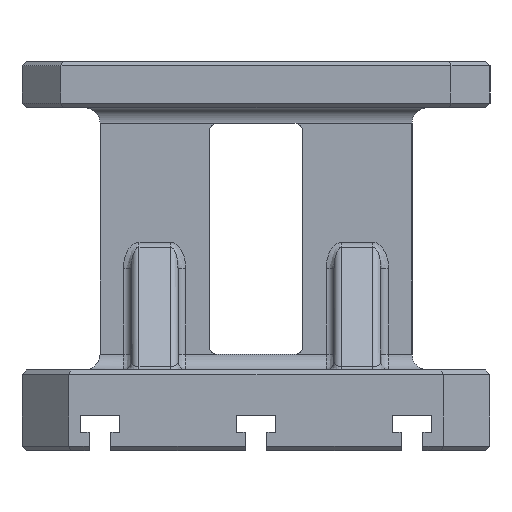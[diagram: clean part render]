
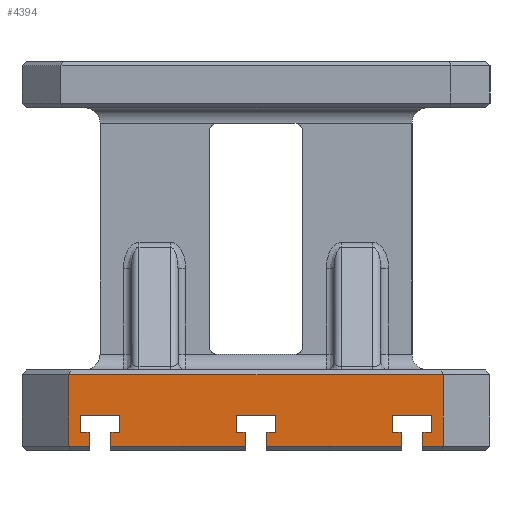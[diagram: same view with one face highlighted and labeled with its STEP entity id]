
A CAD part, left-side view. The second image highlights one B-rep face of the part: STEP entity #4394.
In plain terms, the highlighted planar face has unit normal (-1, 0, 0).
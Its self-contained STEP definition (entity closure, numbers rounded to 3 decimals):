
#141=DIRECTION('',(0.,0.,1.));
#142=VECTOR('',#141,9.);
#143=CARTESIAN_POINT('',(-300.,-107.,-23.));
#144=LINE('',#143,#142);
#145=DIRECTION('',(0.,-1.,0.));
#146=VECTOR('',#145,5.5);
#147=CARTESIAN_POINT('',(-300.,-107.,-14.));
#148=LINE('',#147,#146);
#149=DIRECTION('',(0.,0.,1.));
#150=VECTOR('',#149,11.);
#151=CARTESIAN_POINT('',(-300.,-112.5,-14.));
#152=LINE('',#151,#150);
#153=DIRECTION('',(0.,1.,0.));
#154=VECTOR('',#153,25.);
#155=CARTESIAN_POINT('',(-300.,-112.5,-3.));
#156=LINE('',#155,#154);
#157=DIRECTION('',(0.,0.,-1.));
#158=VECTOR('',#157,11.);
#159=CARTESIAN_POINT('',(-300.,-87.5,-3.));
#160=LINE('',#159,#158);
#161=DIRECTION('',(0.,-1.,0.));
#162=VECTOR('',#161,5.5);
#163=CARTESIAN_POINT('',(-300.,-87.5,-14.));
#164=LINE('',#163,#162);
#165=DIRECTION('',(0.,0.,1.));
#166=VECTOR('',#165,9.);
#167=CARTESIAN_POINT('',(-300.,-93.,-23.));
#168=LINE('',#167,#166);
#169=DIRECTION('',(0.,1.,0.));
#170=VECTOR('',#169,86.);
#171=CARTESIAN_POINT('',(-300.,-93.,-23.));
#172=LINE('',#171,#170);
#173=DIRECTION('',(0.,0.,1.));
#174=VECTOR('',#173,9.);
#175=CARTESIAN_POINT('',(-300.,-7.,-23.));
#176=LINE('',#175,#174);
#177=DIRECTION('',(0.,-1.,0.));
#178=VECTOR('',#177,5.5);
#179=CARTESIAN_POINT('',(-300.,-7.,-14.));
#180=LINE('',#179,#178);
#181=DIRECTION('',(0.,0.,1.));
#182=VECTOR('',#181,11.);
#183=CARTESIAN_POINT('',(-300.,-12.5,-14.));
#184=LINE('',#183,#182);
#185=DIRECTION('',(0.,1.,0.));
#186=VECTOR('',#185,25.);
#187=CARTESIAN_POINT('',(-300.,-12.5,-3.));
#188=LINE('',#187,#186);
#189=DIRECTION('',(0.,0.,-1.));
#190=VECTOR('',#189,11.);
#191=CARTESIAN_POINT('',(-300.,12.5,-3.));
#192=LINE('',#191,#190);
#193=DIRECTION('',(0.,-1.,0.));
#194=VECTOR('',#193,5.5);
#195=CARTESIAN_POINT('',(-300.,12.5,-14.));
#196=LINE('',#195,#194);
#197=DIRECTION('',(0.,0.,1.));
#198=VECTOR('',#197,9.);
#199=CARTESIAN_POINT('',(-300.,7.,-23.));
#200=LINE('',#199,#198);
#201=DIRECTION('',(0.,1.,0.));
#202=VECTOR('',#201,86.);
#203=CARTESIAN_POINT('',(-300.,7.,-23.));
#204=LINE('',#203,#202);
#205=DIRECTION('',(0.,0.,1.));
#206=VECTOR('',#205,9.);
#207=CARTESIAN_POINT('',(-300.,93.,-23.));
#208=LINE('',#207,#206);
#209=DIRECTION('',(0.,-1.,0.));
#210=VECTOR('',#209,5.5);
#211=CARTESIAN_POINT('',(-300.,93.,-14.));
#212=LINE('',#211,#210);
#213=DIRECTION('',(0.,0.,1.));
#214=VECTOR('',#213,11.);
#215=CARTESIAN_POINT('',(-300.,87.5,-14.));
#216=LINE('',#215,#214);
#217=DIRECTION('',(0.,1.,0.));
#218=VECTOR('',#217,25.);
#219=CARTESIAN_POINT('',(-300.,87.5,-3.));
#220=LINE('',#219,#218);
#221=DIRECTION('',(0.,0.,-1.));
#222=VECTOR('',#221,11.);
#223=CARTESIAN_POINT('',(-300.,112.5,-3.));
#224=LINE('',#223,#222);
#225=DIRECTION('',(0.,-1.,0.));
#226=VECTOR('',#225,5.5);
#227=CARTESIAN_POINT('',(-300.,112.5,-14.));
#228=LINE('',#227,#226);
#229=DIRECTION('',(0.,0.,1.));
#230=VECTOR('',#229,9.);
#231=CARTESIAN_POINT('',(-300.,107.,-23.));
#232=LINE('',#231,#230);
#233=DIRECTION('',(0.,1.,0.));
#234=VECTOR('',#233,13.);
#235=CARTESIAN_POINT('',(-300.,107.,-23.));
#236=LINE('',#235,#234);
#237=DIRECTION('',(0.,0.,-1.));
#238=VECTOR('',#237,46.);
#239=CARTESIAN_POINT('',(-300.,120.,23.));
#240=LINE('',#239,#238);
#241=DIRECTION('',(0.,-1.,0.));
#242=VECTOR('',#241,240.);
#243=CARTESIAN_POINT('',(-300.,120.,23.));
#244=LINE('',#243,#242);
#245=DIRECTION('',(0.,0.,-1.));
#246=VECTOR('',#245,46.);
#247=CARTESIAN_POINT('',(-300.,-120.,23.));
#248=LINE('',#247,#246);
#249=DIRECTION('',(0.,1.,0.));
#250=VECTOR('',#249,13.);
#251=CARTESIAN_POINT('',(-300.,-120.,-23.));
#252=LINE('',#251,#250);
#3297=CARTESIAN_POINT('',(-300.,120.,-23.));
#3299=VERTEX_POINT('',#3297);
#3327=CARTESIAN_POINT('',(-300.,-120.,-23.));
#3328=VERTEX_POINT('',#3327);
#3363=CARTESIAN_POINT('',(-300.,120.,23.));
#3364=VERTEX_POINT('',#3363);
#3373=CARTESIAN_POINT('',(-300.,-120.,23.));
#3374=VERTEX_POINT('',#3373);
#3999=CARTESIAN_POINT('',(-300.,-7.,-23.));
#4000=CARTESIAN_POINT('',(-300.,-7.,-14.));
#4001=VERTEX_POINT('',#3999);
#4002=VERTEX_POINT('',#4000);
#4003=CARTESIAN_POINT('',(-300.,-12.5,-14.));
#4004=VERTEX_POINT('',#4003);
#4005=CARTESIAN_POINT('',(-300.,-12.5,-3.));
#4006=VERTEX_POINT('',#4005);
#4007=CARTESIAN_POINT('',(-300.,12.5,-3.));
#4008=VERTEX_POINT('',#4007);
#4009=CARTESIAN_POINT('',(-300.,12.5,-14.));
#4010=VERTEX_POINT('',#4009);
#4011=CARTESIAN_POINT('',(-300.,7.,-14.));
#4012=VERTEX_POINT('',#4011);
#4013=CARTESIAN_POINT('',(-300.,7.,-23.));
#4014=VERTEX_POINT('',#4013);
#4039=CARTESIAN_POINT('',(-300.,93.,-23.));
#4040=CARTESIAN_POINT('',(-300.,93.,-14.));
#4041=VERTEX_POINT('',#4039);
#4042=VERTEX_POINT('',#4040);
#4043=CARTESIAN_POINT('',(-300.,87.5,-14.));
#4044=VERTEX_POINT('',#4043);
#4045=CARTESIAN_POINT('',(-300.,87.5,-3.));
#4046=VERTEX_POINT('',#4045);
#4047=CARTESIAN_POINT('',(-300.,112.5,-3.));
#4048=VERTEX_POINT('',#4047);
#4049=CARTESIAN_POINT('',(-300.,112.5,-14.));
#4050=VERTEX_POINT('',#4049);
#4051=CARTESIAN_POINT('',(-300.,107.,-14.));
#4052=VERTEX_POINT('',#4051);
#4053=CARTESIAN_POINT('',(-300.,107.,-23.));
#4054=VERTEX_POINT('',#4053);
#4079=CARTESIAN_POINT('',(-300.,-107.,-23.));
#4080=CARTESIAN_POINT('',(-300.,-107.,-14.));
#4081=VERTEX_POINT('',#4079);
#4082=VERTEX_POINT('',#4080);
#4083=CARTESIAN_POINT('',(-300.,-112.5,-14.));
#4084=VERTEX_POINT('',#4083);
#4085=CARTESIAN_POINT('',(-300.,-112.5,-3.));
#4086=VERTEX_POINT('',#4085);
#4087=CARTESIAN_POINT('',(-300.,-87.5,-3.));
#4088=VERTEX_POINT('',#4087);
#4089=CARTESIAN_POINT('',(-300.,-87.5,-14.));
#4090=VERTEX_POINT('',#4089);
#4091=CARTESIAN_POINT('',(-300.,-93.,-14.));
#4092=VERTEX_POINT('',#4091);
#4093=CARTESIAN_POINT('',(-300.,-93.,-23.));
#4094=VERTEX_POINT('',#4093);
#4337=CARTESIAN_POINT('',(-300.,150.,-26.));
#4338=DIRECTION('',(-1.,0.,0.));
#4339=DIRECTION('',(0.,-1.,0.));
#4340=AXIS2_PLACEMENT_3D('',#4337,#4338,#4339);
#4341=PLANE('',#4340);
#4343=ORIENTED_EDGE('',*,*,#4342,.T.);
#4345=ORIENTED_EDGE('',*,*,#4344,.T.);
#4347=ORIENTED_EDGE('',*,*,#4346,.T.);
#4349=ORIENTED_EDGE('',*,*,#4348,.T.);
#4351=ORIENTED_EDGE('',*,*,#4350,.T.);
#4353=ORIENTED_EDGE('',*,*,#4352,.T.);
#4355=ORIENTED_EDGE('',*,*,#4354,.F.);
#4356=ORIENTED_EDGE('',*,*,#4332,.T.);
#4358=ORIENTED_EDGE('',*,*,#4357,.T.);
#4360=ORIENTED_EDGE('',*,*,#4359,.T.);
#4362=ORIENTED_EDGE('',*,*,#4361,.T.);
#4364=ORIENTED_EDGE('',*,*,#4363,.T.);
#4366=ORIENTED_EDGE('',*,*,#4365,.T.);
#4368=ORIENTED_EDGE('',*,*,#4367,.T.);
#4369=ORIENTED_EDGE('',*,*,#4269,.F.);
#4370=ORIENTED_EDGE('',*,*,#4285,.T.);
#4371=ORIENTED_EDGE('',*,*,#4195,.T.);
#4373=ORIENTED_EDGE('',*,*,#4372,.T.);
#4375=ORIENTED_EDGE('',*,*,#4374,.T.);
#4377=ORIENTED_EDGE('',*,*,#4376,.T.);
#4379=ORIENTED_EDGE('',*,*,#4378,.T.);
#4381=ORIENTED_EDGE('',*,*,#4380,.T.);
#4383=ORIENTED_EDGE('',*,*,#4382,.F.);
#4384=ORIENTED_EDGE('',*,*,#4302,.T.);
#4386=ORIENTED_EDGE('',*,*,#4385,.F.);
#4388=ORIENTED_EDGE('',*,*,#4387,.T.);
#4390=ORIENTED_EDGE('',*,*,#4389,.T.);
#4391=ORIENTED_EDGE('',*,*,#4314,.T.);
#4392=EDGE_LOOP('',(#4343,#4345,#4347,#4349,#4351,#4353,#4355,#4356,#4358,#4360,
#4362,#4364,#4366,#4368,#4369,#4370,#4371,#4373,#4375,#4377,#4379,#4381,#4383,
#4384,#4386,#4388,#4390,#4391));
#4393=FACE_OUTER_BOUND('',#4392,.F.);
#4394=ADVANCED_FACE('',(#4393),#4341,.T.);
#4195=EDGE_CURVE('',#4041,#4042,#208,.T.);
#4269=EDGE_CURVE('',#4014,#4012,#200,.T.);
#4285=EDGE_CURVE('',#4014,#4041,#204,.T.);
#4302=EDGE_CURVE('',#4054,#3299,#236,.T.);
#4314=EDGE_CURVE('',#3328,#4081,#252,.T.);
#4332=EDGE_CURVE('',#4094,#4001,#172,.T.);
#4342=EDGE_CURVE('',#4081,#4082,#144,.T.);
#4344=EDGE_CURVE('',#4082,#4084,#148,.T.);
#4346=EDGE_CURVE('',#4084,#4086,#152,.T.);
#4348=EDGE_CURVE('',#4086,#4088,#156,.T.);
#4350=EDGE_CURVE('',#4088,#4090,#160,.T.);
#4352=EDGE_CURVE('',#4090,#4092,#164,.T.);
#4354=EDGE_CURVE('',#4094,#4092,#168,.T.);
#4357=EDGE_CURVE('',#4001,#4002,#176,.T.);
#4359=EDGE_CURVE('',#4002,#4004,#180,.T.);
#4361=EDGE_CURVE('',#4004,#4006,#184,.T.);
#4363=EDGE_CURVE('',#4006,#4008,#188,.T.);
#4365=EDGE_CURVE('',#4008,#4010,#192,.T.);
#4367=EDGE_CURVE('',#4010,#4012,#196,.T.);
#4372=EDGE_CURVE('',#4042,#4044,#212,.T.);
#4374=EDGE_CURVE('',#4044,#4046,#216,.T.);
#4376=EDGE_CURVE('',#4046,#4048,#220,.T.);
#4378=EDGE_CURVE('',#4048,#4050,#224,.T.);
#4380=EDGE_CURVE('',#4050,#4052,#228,.T.);
#4382=EDGE_CURVE('',#4054,#4052,#232,.T.);
#4385=EDGE_CURVE('',#3364,#3299,#240,.T.);
#4387=EDGE_CURVE('',#3364,#3374,#244,.T.);
#4389=EDGE_CURVE('',#3374,#3328,#248,.T.);
